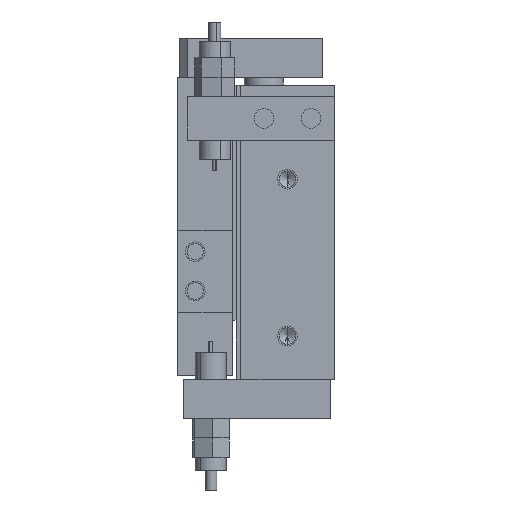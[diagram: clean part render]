
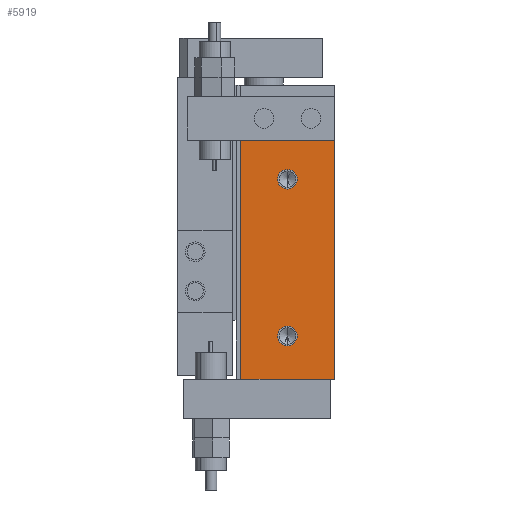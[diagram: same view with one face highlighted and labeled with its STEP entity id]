
A CAD part, left-side view. The second image highlights one B-rep face of the part: STEP entity #5919.
In plain terms, the highlighted planar face has unit normal (-1, 0, 0) as drawn and (1, 0, 0) by its records, which use the part's own axes.
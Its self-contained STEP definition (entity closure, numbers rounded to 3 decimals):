
#1760 = VERTEX_POINT ( 'NONE', #13071 ) ;
#1796 = VERTEX_POINT ( 'NONE', #13231 ) ;
#1810 = EDGE_CURVE ( 'NONE', #1796, #1760, #13278, .T. ) ;
#4521 = VERTEX_POINT ( 'NONE', #15518 ) ;
#4856 = EDGE_CURVE ( 'NONE', #1796, #4521, #15951, .T. ) ;
#5231 = ORIENTED_EDGE ( 'NONE', *, *, #5966, .F. ) ;
#5353 = EDGE_LOOP ( 'NONE', ( #5378, #5850 ) ) ;
#5378 = ORIENTED_EDGE ( 'NONE', *, *, #5853, .F. ) ;
#5845 = EDGE_LOOP ( 'NONE', ( #5968, #6485, #6463, #6490 ) ) ;
#5850 = ORIENTED_EDGE ( 'NONE', *, *, #27301, .F. ) ;
#5853 = EDGE_CURVE ( 'NONE', #27323, #26680, #16095, .T. ) ;
#5919 = ADVANCED_FACE ( 'NONE', ( #16126, #16141, #16132 ), #16127, .F. ) ;
#5966 = EDGE_CURVE ( 'NONE', #29737, #29722, #16118, .T. ) ;
#5968 = ORIENTED_EDGE ( 'NONE', *, *, #6520, .T. ) ;
#6022 = EDGE_LOOP ( 'NONE', ( #5231, #6339 ) ) ;
#6250 = VERTEX_POINT ( 'NONE', #16169 ) ;
#6339 = ORIENTED_EDGE ( 'NONE', *, *, #29619, .F. ) ;
#6463 = ORIENTED_EDGE ( 'NONE', *, *, #1810, .F. ) ;
#6483 = EDGE_CURVE ( 'NONE', #1760, #6250, #16168, .T. ) ;
#6485 = ORIENTED_EDGE ( 'NONE', *, *, #6483, .F. ) ;
#6490 = ORIENTED_EDGE ( 'NONE', *, *, #4856, .T. ) ;
#6520 = EDGE_CURVE ( 'NONE', #4521, #6250, #16214, .T. ) ;
#13071 = CARTESIAN_POINT ( 'NONE',  ( 62., 21., 75. ) ) ;
#13231 = CARTESIAN_POINT ( 'NONE',  ( 62., -3., 75. ) ) ;
#13278 = LINE ( 'NONE', #13287, #13288 ) ;
#13287 = CARTESIAN_POINT ( 'NONE',  ( 62., -3., 75. ) ) ;
#13288 = VECTOR ( 'NONE', #13358, 1000. ) ;
#13358 = DIRECTION ( 'NONE',  ( 0., 1., 0. ) ) ;
#15518 = CARTESIAN_POINT ( 'NONE',  ( 62., -3., 14. ) ) ;
#15945 = DIRECTION ( 'NONE',  ( 0., 0., -1. ) ) ;
#15946 = VECTOR ( 'NONE', #15945, 1000. ) ;
#15948 = CARTESIAN_POINT ( 'NONE',  ( 62., -3., 75. ) ) ;
#15951 = LINE ( 'NONE', #15948, #15946 ) ;
#16083 = AXIS2_PLACEMENT_3D ( 'NONE', #16117, #16116, #16115 ) ;
#16095 = CIRCLE ( 'NONE', #16137, 2.5 ) ;
#16110 = DIRECTION ( 'NONE',  ( 0., 0., -1. ) ) ;
#16111 = DIRECTION ( 'NONE',  ( 1., 0., 0. ) ) ;
#16113 = CARTESIAN_POINT ( 'NONE',  ( 62., 9., 24. ) ) ;
#16115 = DIRECTION ( 'NONE',  ( 0., 0., 1. ) ) ;
#16116 = DIRECTION ( 'NONE',  ( -1., 0., 0. ) ) ;
#16117 = CARTESIAN_POINT ( 'NONE',  ( 62., -3., 75. ) ) ;
#16118 = CIRCLE ( 'NONE', #16121, 2.5 ) ;
#16121 = AXIS2_PLACEMENT_3D ( 'NONE', #16113, #16111, #16110 ) ;
#16122 = DIRECTION ( 'NONE',  ( 0., 0., -1. ) ) ;
#16123 = DIRECTION ( 'NONE',  ( 1., 0., 0. ) ) ;
#16126 = FACE_BOUND ( 'NONE', #5353, .T. ) ;
#16127 = PLANE ( 'NONE',  #16083 ) ;
#16132 = FACE_OUTER_BOUND ( 'NONE', #5845, .T. ) ;
#16133 = CARTESIAN_POINT ( 'NONE',  ( 62., 9., 64. ) ) ;
#16137 = AXIS2_PLACEMENT_3D ( 'NONE', #16133, #16123, #16122 ) ;
#16141 = FACE_BOUND ( 'NONE', #6022, .T. ) ;
#16166 = DIRECTION ( 'NONE',  ( 0., 0., -1. ) ) ;
#16167 = VECTOR ( 'NONE', #16166, 1000. ) ;
#16168 = LINE ( 'NONE', #16177, #16167 ) ;
#16169 = CARTESIAN_POINT ( 'NONE',  ( 62., 21., 14. ) ) ;
#16177 = CARTESIAN_POINT ( 'NONE',  ( 62., 21., 75. ) ) ;
#16211 = DIRECTION ( 'NONE',  ( 0., 1., 0. ) ) ;
#16212 = VECTOR ( 'NONE', #16211, 1000. ) ;
#16213 = CARTESIAN_POINT ( 'NONE',  ( 62., -3., 14. ) ) ;
#16214 = LINE ( 'NONE', #16213, #16212 ) ;
#23441 = DIRECTION ( 'NONE',  ( 0., 0., -1. ) ) ;
#23829 = CIRCLE ( 'NONE', #23928, 2.5 ) ;
#23926 = DIRECTION ( 'NONE',  ( 1., 0., 0. ) ) ;
#23927 = CARTESIAN_POINT ( 'NONE',  ( 62., 9., 64. ) ) ;
#23928 = AXIS2_PLACEMENT_3D ( 'NONE', #23927, #23926, #23441 ) ;
#24016 = CARTESIAN_POINT ( 'NONE',  ( 62., 9., 66.5 ) ) ;
#24228 = CARTESIAN_POINT ( 'NONE',  ( 62., 9., 61.5 ) ) ;
#24714 = DIRECTION ( 'NONE',  ( 0., 0., -1. ) ) ;
#24715 = DIRECTION ( 'NONE',  ( 1., 0., 0. ) ) ;
#24716 = CARTESIAN_POINT ( 'NONE',  ( 62., 9., 24. ) ) ;
#24717 = AXIS2_PLACEMENT_3D ( 'NONE', #24716, #24715, #24714 ) ;
#24722 = CIRCLE ( 'NONE', #24717, 2.5 ) ;
#24858 = CARTESIAN_POINT ( 'NONE',  ( 62., 9., 26.5 ) ) ;
#24921 = CARTESIAN_POINT ( 'NONE',  ( 62., 9., 21.5 ) ) ;
#26680 = VERTEX_POINT ( 'NONE', #24016 ) ;
#27301 = EDGE_CURVE ( 'NONE', #26680, #27323, #23829, .T. ) ;
#27323 = VERTEX_POINT ( 'NONE', #24228 ) ;
#29619 = EDGE_CURVE ( 'NONE', #29722, #29737, #24722, .T. ) ;
#29722 = VERTEX_POINT ( 'NONE', #24858 ) ;
#29737 = VERTEX_POINT ( 'NONE', #24921 ) ;
